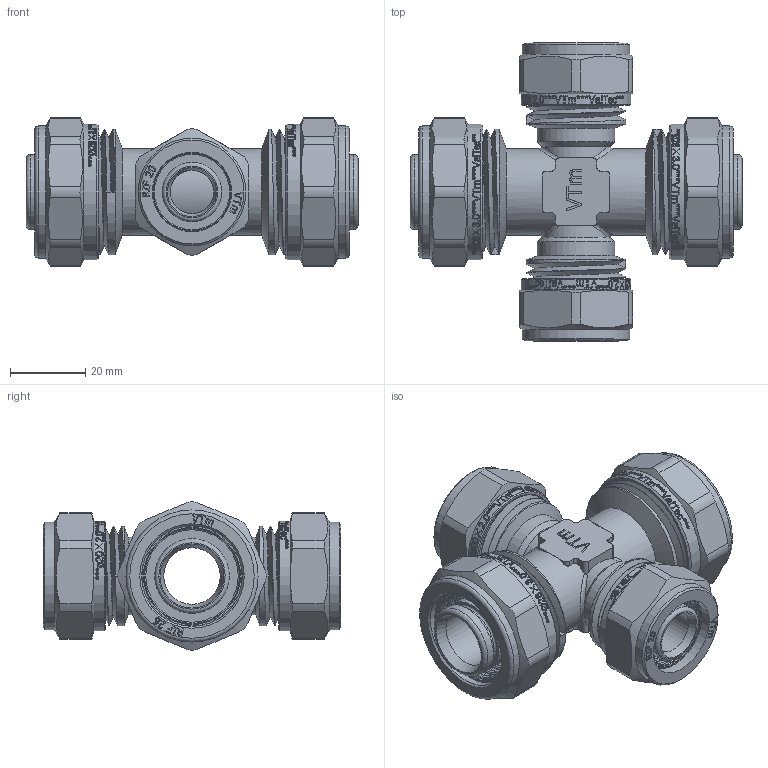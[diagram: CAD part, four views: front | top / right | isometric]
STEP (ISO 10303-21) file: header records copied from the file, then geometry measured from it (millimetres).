
FILE_DESCRIPTION(/* description */ (''),/* implementation_level */ '2;1');
FILE_NAME(/* name */ 'F:\Артём\00000\Работа удаленка\Обжимные фитинги\VTm.341\STP\VTm.341.N.262026.stp',/* time_stamp */ '2020-08-11T10:10:48+03:00',/* author */ ('almis'),/* organization */ (''),/* preprocessor_version */ 'ST-DEVELOPER v18',/* originating_system */ 'Autodesk Inventor 2020',/* authorisation */ '');
FILE_SCHEMA (('AUTOMOTIVE_DESIGN { 1 0 10303 214 3 1 1 }'));
Products named in the file (1): VTm.301.N.001605
Bounding box: 88 x 78.96 x 39.39 mm (x, y, z)
Volume: 56512.2 mm3; surface area: 46778.7 mm2
Topology: 1 solids, 3 shells, 2664 faces, 7493 edges, 5057 vertices
Faces by surface type: bspline 1456, plane 729, cylinder 329, torus 94, cone 56
Full cylindrical faces by diameter (mm): 8 x2, 11.5 x2, 13.4 x4, 15 x1, 15.75 x8, 17.4 x4, 19.8 x10, 19.986 x8, 20.2 x2, 20.5 x2, 20.728 x10, 21 x2, 21.8 x4, 23 x2, 23.201 x2, 24.2 x2, 24.516 x8, 25.435 x10, 26.2 x2, 26.4 x6, 26.7 x2, 28.5 x4, 28.7 x4, 29 x2, 30.5 x2, 33.3 x6, 35 x2, 36 x2
Entity records: 111551 total; most frequent: CARTESIAN_POINT 51928, ORIENTED_EDGE 14986, DIRECTION 7932, EDGE_CURVE 7493, VERTEX_POINT 5057, LINE 3166, VECTOR 3166, B_SPLINE_CURVE_WITH_KNOTS 3093
